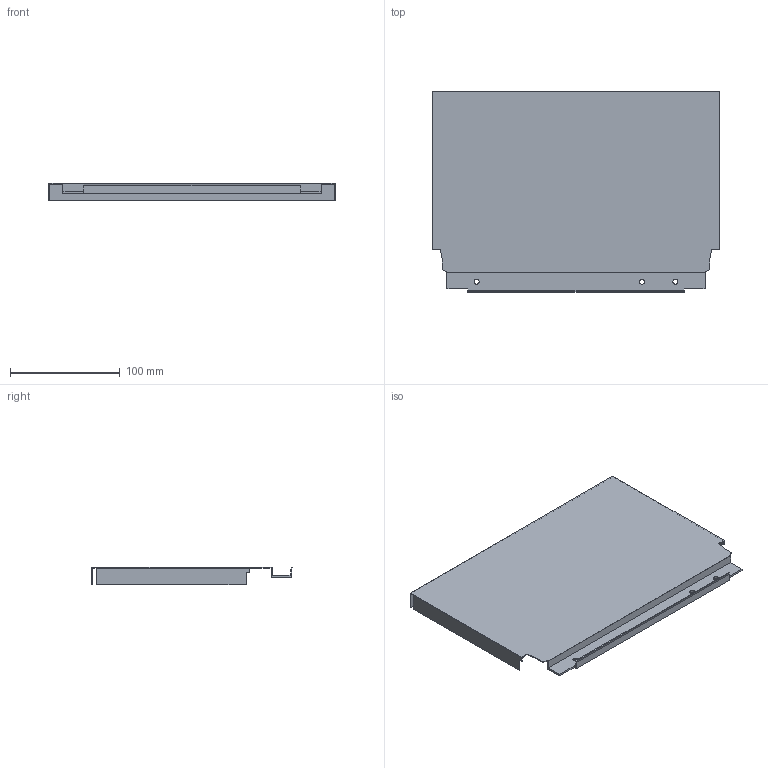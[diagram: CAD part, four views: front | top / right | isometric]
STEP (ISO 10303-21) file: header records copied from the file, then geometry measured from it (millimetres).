
FILE_DESCRIPTION (( 'STEP AP214' ), '1' );
FILE_NAME ('_DWD_XP Stahlrückwand_H182_KAB350_S19.step', '2010-07-08T12:58:03', ( 'grass' ), ( '' ), 'SwSTEP 2.0', 'SolidWorks 2010', '' );
FILE_SCHEMA (( 'AUTOMOTIVE_DESIGN' ));
Length unit declared in the file: millimetre
Products named in the file (1): _DWD_XP Stahlrückwand_H182_KAB350_S19
Bounding box: 261 x 182.49 x 16 mm (x, y, z)
Volume: 49974.2 mm3; surface area: 117002.9 mm2
Topology: 1 solids, 1 shells, 46 faces, 132 edges, 88 vertices
Faces by surface type: plane 40, cylinder 6
Entity records: 1534 total; most frequent: CARTESIAN_POINT 267, ORIENTED_EDGE 264, DIRECTION 238, EDGE_CURVE 132, LINE 120, VECTOR 120, VERTEX_POINT 88, AXIS2_PLACEMENT_3D 59
